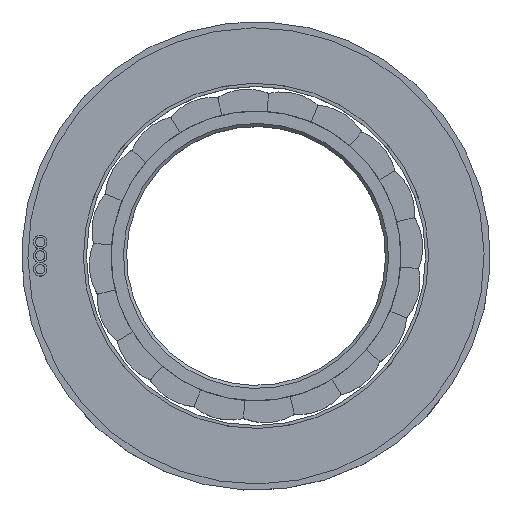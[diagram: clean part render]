
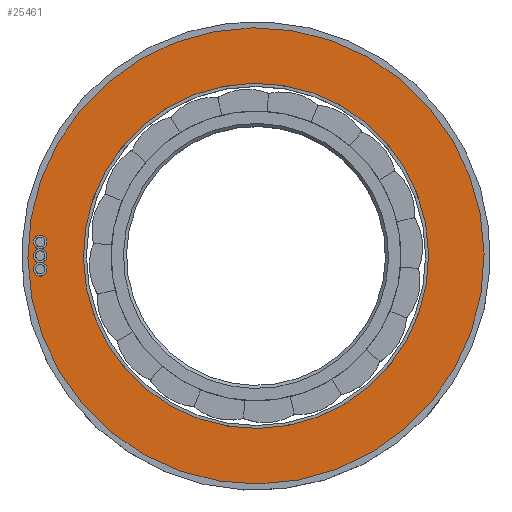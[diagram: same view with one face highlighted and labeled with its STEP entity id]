
A CAD part, top view. The second image highlights one B-rep face of the part: STEP entity #25461.
In plain terms, the highlighted planar face has unit normal (0, 0, 1).
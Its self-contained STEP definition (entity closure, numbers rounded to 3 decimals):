
#266 = CARTESIAN_POINT ( 'NONE',  ( 0., 0., 15.3 ) ) ;
#429 = DIRECTION ( 'NONE',  ( 0., 0., 1. ) ) ;
#1546 = CARTESIAN_POINT ( 'NONE',  ( 0., 0., 15.3 ) ) ;
#2930 = AXIS2_PLACEMENT_3D ( 'NONE', #266, #429, #24215 ) ;
#5046 = ORIENTED_EDGE ( 'NONE', *, *, #24018, .F. ) ;
#6199 = CARTESIAN_POINT ( 'NONE',  ( 0., 0., 15.3 ) ) ;
#9287 = CIRCLE ( 'NONE', #18180, 37. ) ;
#10192 = DIRECTION ( 'NONE',  ( 0.872, -0.489, 0. ) ) ;
#10794 = AXIS2_PLACEMENT_3D ( 'NONE', #1546, #20774, #10192 ) ;
#11853 = ORIENTED_EDGE ( 'NONE', *, *, #16720, .T. ) ;
#15874 = DIRECTION ( 'NONE',  ( 0., 0., 1. ) ) ;
#16242 = VERTEX_POINT ( 'NONE', #21254 ) ;
#16720 = EDGE_CURVE ( 'NONE', #22997, #22997, #9287, .T. ) ;
#18180 = AXIS2_PLACEMENT_3D ( 'NONE', #6199, #15874, #25476 ) ;
#20774 = DIRECTION ( 'NONE',  ( 0., 0., 1. ) ) ;
#21254 = CARTESIAN_POINT ( 'NONE',  ( 24.424, -13.692, 15.3 ) ) ;
#22539 = CARTESIAN_POINT ( 'NONE',  ( 32.275, -18.093, 15.3 ) ) ;
#22980 = PLANE ( 'NONE',  #10794 ) ;
#22997 = VERTEX_POINT ( 'NONE', #22539 ) ;
#24018 = EDGE_CURVE ( 'NONE', #16242, #16242, #24490, .T. ) ;
#24215 = DIRECTION ( 'NONE',  ( 0.872, -0.489, 0. ) ) ;
#24490 = CIRCLE ( 'NONE', #2930, 28. ) ;
#24617 = FACE_OUTER_BOUND ( 'NONE', #26122, .T. ) ;
#24872 = EDGE_LOOP ( 'NONE', ( #5046 ) ) ;
#25461 = ADVANCED_FACE ( 'NONE', ( #24617, #29996 ), #22980, .T. ) ;
#25476 = DIRECTION ( 'NONE',  ( 0.872, -0.489, 0. ) ) ;
#26122 = EDGE_LOOP ( 'NONE', ( #11853 ) ) ;
#29996 = FACE_BOUND ( 'NONE', #24872, .T. ) ;
